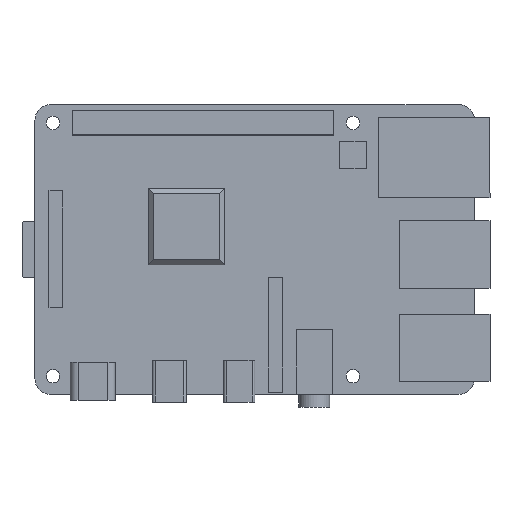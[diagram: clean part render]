
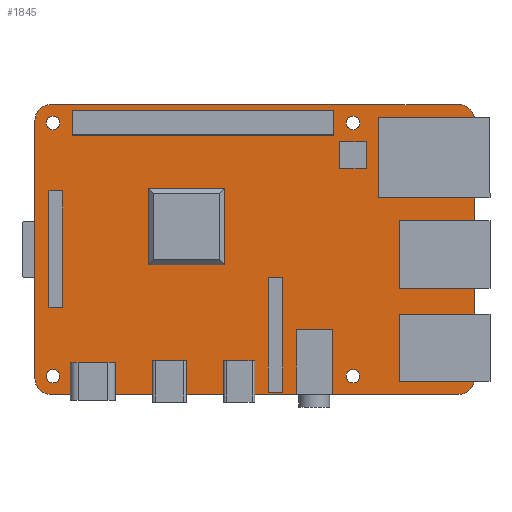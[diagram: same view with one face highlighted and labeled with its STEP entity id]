
A CAD part, top view. The second image highlights one B-rep face of the part: STEP entity #1845.
In plain terms, the highlighted planar face has unit normal (0, 0, 1).
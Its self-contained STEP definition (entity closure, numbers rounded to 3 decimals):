
#117=FACE_BOUND('',#341,.T.);
#118=FACE_BOUND('',#342,.T.);
#119=FACE_BOUND('',#343,.T.);
#120=FACE_BOUND('',#344,.T.);
#129=PLANE('',#2134);
#227=FACE_OUTER_BOUND('',#340,.T.);
#340=EDGE_LOOP('',(#1360,#1361,#1362,#1363,#1364,#1365,#1366,#1367));
#341=EDGE_LOOP('',(#1368));
#342=EDGE_LOOP('',(#1369));
#343=EDGE_LOOP('',(#1370));
#344=EDGE_LOOP('',(#1371));
#455=LINE('',#2902,#656);
#459=LINE('',#2914,#660);
#463=LINE('',#2926,#664);
#467=LINE('',#2938,#668);
#656=VECTOR('',#2328,10.);
#660=VECTOR('',#2340,10.);
#664=VECTOR('',#2352,10.);
#668=VECTOR('',#2364,10.);
#851=CIRCLE('',#2107,1.3);
#853=CIRCLE('',#2110,1.3);
#855=CIRCLE('',#2113,1.3);
#857=CIRCLE('',#2116,1.3);
#860=CIRCLE('',#2121,3.);
#862=CIRCLE('',#2125,3.);
#864=CIRCLE('',#2129,3.);
#866=CIRCLE('',#2133,3.);
#899=VERTEX_POINT('',#2872);
#901=VERTEX_POINT('',#2878);
#903=VERTEX_POINT('',#2884);
#905=VERTEX_POINT('',#2890);
#909=VERTEX_POINT('',#2899);
#910=VERTEX_POINT('',#2901);
#912=VERTEX_POINT('',#2907);
#914=VERTEX_POINT('',#2913);
#916=VERTEX_POINT('',#2919);
#918=VERTEX_POINT('',#2925);
#920=VERTEX_POINT('',#2931);
#922=VERTEX_POINT('',#2937);
#1063=EDGE_CURVE('',#899,#899,#851,.T.);
#1066=EDGE_CURVE('',#901,#901,#853,.T.);
#1069=EDGE_CURVE('',#903,#903,#855,.T.);
#1072=EDGE_CURVE('',#905,#905,#857,.T.);
#1077=EDGE_CURVE('',#910,#909,#455,.T.);
#1080=EDGE_CURVE('',#912,#910,#860,.T.);
#1083=EDGE_CURVE('',#914,#912,#459,.T.);
#1086=EDGE_CURVE('',#916,#914,#862,.T.);
#1089=EDGE_CURVE('',#918,#916,#463,.T.);
#1092=EDGE_CURVE('',#920,#918,#864,.T.);
#1095=EDGE_CURVE('',#922,#920,#467,.T.);
#1098=EDGE_CURVE('',#909,#922,#866,.T.);
#1360=ORIENTED_EDGE('',*,*,#1098,.T.);
#1361=ORIENTED_EDGE('',*,*,#1095,.T.);
#1362=ORIENTED_EDGE('',*,*,#1092,.T.);
#1363=ORIENTED_EDGE('',*,*,#1089,.T.);
#1364=ORIENTED_EDGE('',*,*,#1086,.T.);
#1365=ORIENTED_EDGE('',*,*,#1083,.T.);
#1366=ORIENTED_EDGE('',*,*,#1080,.T.);
#1367=ORIENTED_EDGE('',*,*,#1077,.T.);
#1368=ORIENTED_EDGE('',*,*,#1072,.T.);
#1369=ORIENTED_EDGE('',*,*,#1069,.T.);
#1370=ORIENTED_EDGE('',*,*,#1066,.T.);
#1371=ORIENTED_EDGE('',*,*,#1063,.T.);
#1845=ADVANCED_FACE('',(#227,#117,#118,#119,#120),#129,.T.);
#2107=AXIS2_PLACEMENT_3D('',#2873,#2298,#2299);
#2110=AXIS2_PLACEMENT_3D('',#2879,#2305,#2306);
#2113=AXIS2_PLACEMENT_3D('',#2885,#2312,#2313);
#2116=AXIS2_PLACEMENT_3D('',#2891,#2319,#2320);
#2121=AXIS2_PLACEMENT_3D('',#2908,#2334,#2335);
#2125=AXIS2_PLACEMENT_3D('',#2920,#2346,#2347);
#2129=AXIS2_PLACEMENT_3D('',#2932,#2358,#2359);
#2133=AXIS2_PLACEMENT_3D('',#2942,#2370,#2371);
#2134=AXIS2_PLACEMENT_3D('',#2943,#2372,#2373);
#2298=DIRECTION('center_axis',(0.,0.,-1.));
#2299=DIRECTION('ref_axis',(1.,0.,0.));
#2305=DIRECTION('center_axis',(0.,0.,-1.));
#2306=DIRECTION('ref_axis',(1.,0.,0.));
#2312=DIRECTION('center_axis',(0.,0.,-1.));
#2313=DIRECTION('ref_axis',(1.,0.,0.));
#2319=DIRECTION('center_axis',(0.,0.,-1.));
#2320=DIRECTION('ref_axis',(1.,0.,0.));
#2328=DIRECTION('',(1.,0.,0.));
#2334=DIRECTION('center_axis',(0.,0.,1.));
#2335=DIRECTION('ref_axis',(-1.,0.,0.));
#2340=DIRECTION('',(0.,-1.,0.));
#2346=DIRECTION('center_axis',(0.,0.,1.));
#2347=DIRECTION('ref_axis',(0.,1.,0.));
#2352=DIRECTION('',(-1.,0.,0.));
#2358=DIRECTION('center_axis',(0.,0.,1.));
#2359=DIRECTION('ref_axis',(0.993,-0.12,0.));
#2364=DIRECTION('',(0.,1.,0.));
#2370=DIRECTION('center_axis',(0.,0.,1.));
#2371=DIRECTION('ref_axis',(0.,-1.,0.));
#2372=DIRECTION('center_axis',(0.,0.,1.));
#2373=DIRECTION('ref_axis',(1.,0.,0.));
#2872=CARTESIAN_POINT('',(27.7,24.5,1.));
#2873=CARTESIAN_POINT('Origin',(29.,24.5,1.));
#2878=CARTESIAN_POINT('',(-30.3,24.5,1.));
#2879=CARTESIAN_POINT('Origin',(-29.,24.5,1.));
#2884=CARTESIAN_POINT('',(-30.3,-24.5,1.));
#2885=CARTESIAN_POINT('Origin',(-29.,-24.5,1.));
#2890=CARTESIAN_POINT('',(27.7,-24.5,1.));
#2891=CARTESIAN_POINT('Origin',(29.,-24.5,1.));
#2899=CARTESIAN_POINT('',(49.5,-28.,1.));
#2901=CARTESIAN_POINT('',(-29.5,-28.,1.));
#2902=CARTESIAN_POINT('',(49.5,-28.,1.));
#2907=CARTESIAN_POINT('',(-32.5,-25.,1.));
#2908=CARTESIAN_POINT('Origin',(-29.5,-25.,1.));
#2913=CARTESIAN_POINT('',(-32.5,25.,1.));
#2914=CARTESIAN_POINT('',(-32.5,25.,1.));
#2919=CARTESIAN_POINT('',(-29.5,28.,1.));
#2920=CARTESIAN_POINT('Origin',(-29.5,25.,1.));
#2925=CARTESIAN_POINT('',(49.521,28.,1.));
#2926=CARTESIAN_POINT('',(49.521,28.,1.));
#2931=CARTESIAN_POINT('',(52.5,24.641,1.));
#2932=CARTESIAN_POINT('Origin',(49.521,25.,1.));
#2937=CARTESIAN_POINT('',(52.5,-25.,1.));
#2938=CARTESIAN_POINT('',(52.5,-25.,1.));
#2942=CARTESIAN_POINT('Origin',(49.5,-25.,1.));
#2943=CARTESIAN_POINT('Origin',(10.011,0.,1.));
